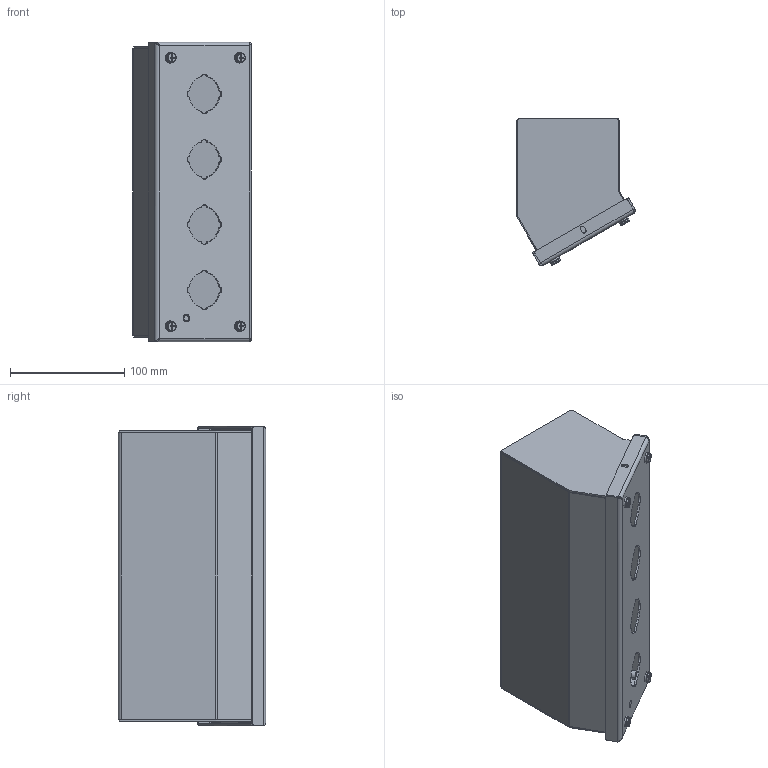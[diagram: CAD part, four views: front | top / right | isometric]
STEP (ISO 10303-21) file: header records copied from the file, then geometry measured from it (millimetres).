
FILE_DESCRIPTION((''),'2;1');
FILE_NAME('MODEL-296_ASM','2021-06-08T09:42:05',('mikek'),('SAGINAW CONTROL & ENGINEERING'),'CREO PARAMETRIC BY PTC INC, 2017260','CREO PARAMETRIC BY PTC INC, 2017260','');
FILE_SCHEMA(('AUTOMOTIVE_DESIGN { 1 0 10303 214 1 1 1 1 }'));
Length unit declared in the file: inch
Products named in the file (11): MODEL-296-BDY; MODEL-296-DR; 100063; 100983; 102534; MODEL-296-GSKT; 120706; MODEL-296-R-SD; MODEL-296-L-SD; 100009; MODEL-296_ASM
Assembly tree (16 placements, depth 2):
  MODEL-296_ASM
    MODEL-296-BDY
    MODEL-296-DR
    100063
    100983  x4
    102534  x4
    MODEL-296-GSKT
    120706
    MODEL-296-R-SD
    MODEL-296-L-SD
    100009
Bounding box: 103.5 x 128.92 x 261.94 mm (x, y, z)
Volume: 209891.7 mm3; surface area: 279234.1 mm2
Topology: 19 solids, 19 shells, 747 faces, 1854 edges, 1092 vertices
Faces by surface type: cylinder 284, plane 267, bspline 88, torus 80, cone 28
Entity records: 21014 total; most frequent: CARTESIAN_POINT 3434, DIRECTION 2452, ORIENTED_EDGE 2252, EDGE_CURVE 1126, PRESENTATION_STYLE_ASSIGNMENT 1039, STYLED_ITEM 1039, CURVE_STYLE 962, AXIS2_PLACEMENT_3D 927
